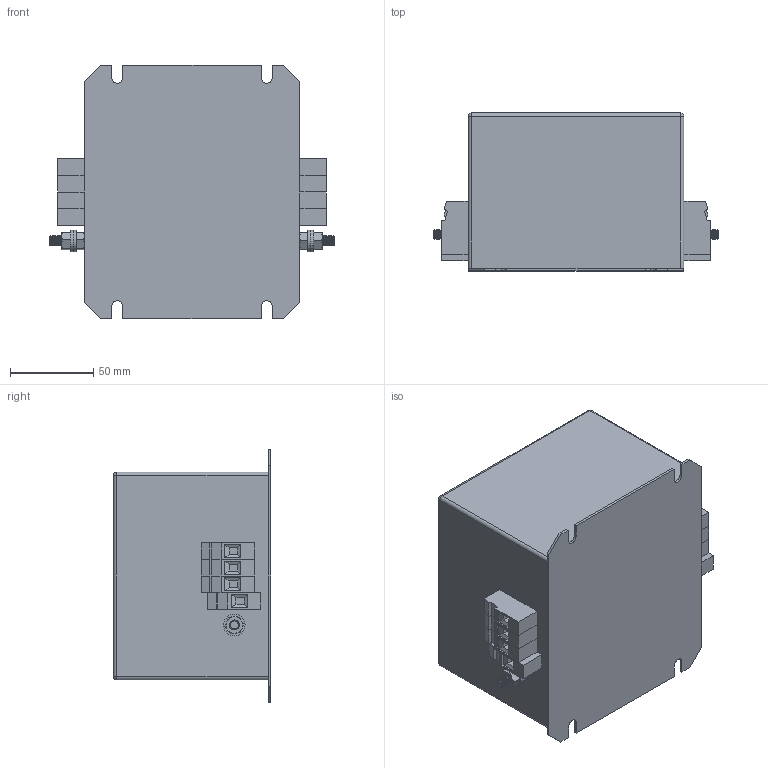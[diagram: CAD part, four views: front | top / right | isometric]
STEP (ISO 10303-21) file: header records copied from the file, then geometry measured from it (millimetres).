
FILE_DESCRIPTION (( 'STEP AP203' ), '1' );
FILE_NAME ('NF-4-25, 36-FTR.STEP', '2018-02-14T10:06:59', ( '' ), ( '' ), 'SwSTEP 2.0', 'SolidWorks 2017', '' );
FILE_SCHEMA (( 'CONFIG_CONTROL_DESIGN' ));
Length unit declared in the file: millimetre
Products named in the file (8): NF-4-25, 36-FTR; flat washer narrow_am_B18.22M - Plain washer, 6 mm, narrow; VDFK-6; hex nut style 1_am_B18.2.4.1M - Hex nut, Style 1,  M6 x 1 --D-N; M6x16 Earth post; VDFK6x3; hex screw_am_B18.6.7M - M6 x 1.0 x 16 Indented HHMS --16S; FSN-2
Assembly tree (14 placements, depth 3):
  NF-4-25, 36-FTR
    FSN-2
    M6x16 Earth post  x2
      flat washer narrow_am_B18.22M - Plain washer, 6 mm, narrow
      hex nut style 1_am_B18.2.4.1M - Hex nut, Style 1,  M6 x 1 --D-N
      hex screw_am_B18.6.7M - M6 x 1.0 x 16 Indented HHMS --16S
    VDFK6x3  x2
      VDFK-6
    VDFK-6  x2
Bounding box: 171.4 x 95 x 153 mm (x, y, z)
Volume: 1558409.2 mm3; surface area: 158041.4 mm2
Topology: 18 solids, 18 shells, 800 faces, 1972 edges, 1240 vertices
Faces by surface type: plane 440, cylinder 188, cone 168, sphere 4
Entity records: 8861 total; most frequent: CARTESIAN_POINT 1495, DIRECTION 1431, ORIENTED_EDGE 1278, EDGE_CURVE 639, AXIS2_PLACEMENT_3D 552, VERTEX_POINT 400, VECTOR 327, LINE 327
